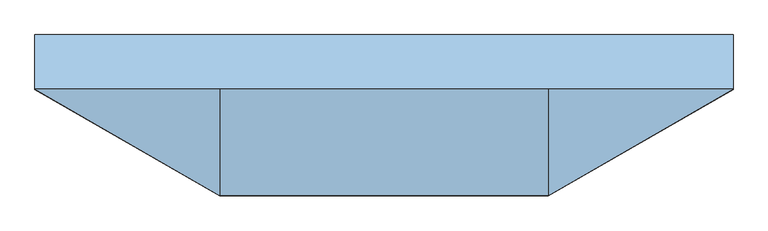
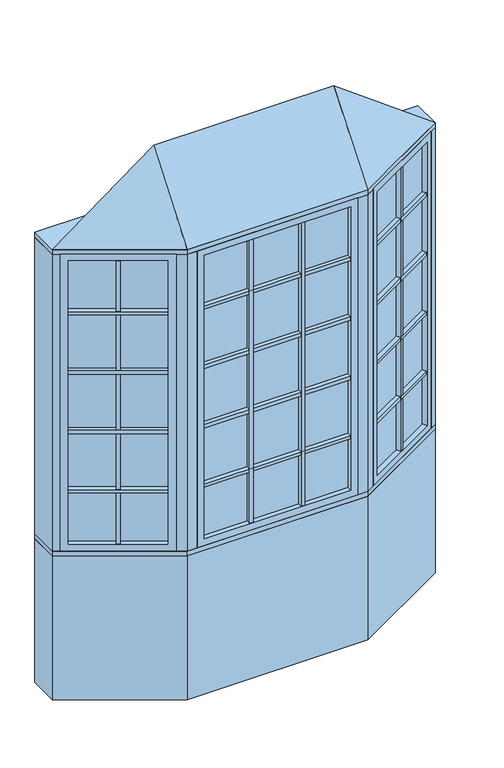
"""IFC4 building model written with IfcOpenShell, lengths in millimetres: window geometry, Pollard_Windows_Tudor Casement Bows and Bays : AML-BAY 30 AFR0616-08-500_GC."""

from ifc_helpers import new_model, si_unit, frame, origin, origin_with_axes, place, context, project, spatial, polyline, outline, extrude, faceted_brep, source, transform, mapped, element, save


def window_e9c9ef86(model_context):
    return source(origin(), model_context, "Body", "SolidModel", [
        extrude(outline(polyline([(532.2305346, -327.3537343), (521.2305346, -308.3011754), (902.1135794, -88.3982469), (913.1135794, -107.4508058), (532.2305346, -327.3537343)])), frame((0.0, 0.0, 1110.998), z_axis=(0.0, 0.0, 1.0), x_axis=(1.0, 0.0, 0.0)), (0.0, 0.0, 1.0), 18.0),
        extrude(outline(polyline([(518.6905346, -303.9017664), (507.6905346, -284.8492075), (888.5735794, -64.946279), (899.5735794, -83.9988379), (518.6905346, -303.9017664)])), frame((0.0, 0.0, 1110.998), z_axis=(0.0, 0.0, 1.0), x_axis=(1.0, 0.0, 0.0)), (0.0, 0.0, 1.0), 18.0),
        extrude(outline(polyline([(532.2305346, -327.3537343), (521.2305346, -308.3011754), (902.1135794, -88.3982469), (913.1135794, -107.4508058), (532.2305346, -327.3537343)])), frame((0.0, 0.0, 1430.998), z_axis=(0.0, 0.0, 1.0), x_axis=(1.0, 0.0, 0.0)), (0.0, 0.0, 1.0), 18.0),
        extrude(outline(polyline([(518.6905346, -303.9017664), (507.6905346, -284.8492075), (888.5735794, -64.946279), (899.5735794, -83.9988379), (518.6905346, -303.9017664)])), frame((0.0, 0.0, 1430.998), z_axis=(0.0, 0.0, 1.0), x_axis=(1.0, 0.0, 0.0)), (0.0, 0.0, 1.0), 18.0),
        extrude(outline(polyline([(532.2305346, -327.3537343), (521.2305346, -308.3011754), (902.1135794, -88.3982469), (913.1135794, -107.4508058), (532.2305346, -327.3537343)])), frame((0.0, 0.0, 1750.998), z_axis=(0.0, 0.0, 1.0), x_axis=(1.0, 0.0, 0.0)), (0.0, 0.0, 1.0), 18.0),
        extrude(outline(polyline([(518.6905346, -303.9017664), (507.6905346, -284.8492075), (888.5735794, -64.946279), (899.5735794, -83.9988379), (518.6905346, -303.9017664)])), frame((0.0, 0.0, 1750.998), z_axis=(0.0, 0.0, 1.0), x_axis=(1.0, 0.0, 0.0)), (0.0, 0.0, 1.0), 18.0),
        extrude(outline(polyline([(532.2305346, -327.3537343), (521.2305346, -308.3011754), (902.1135794, -88.3982469), (913.1135794, -107.4508058), (532.2305346, -327.3537343)])), frame((0.0, 0.0, 2070.998), z_axis=(0.0, 0.0, 1.0), x_axis=(1.0, 0.0, 0.0)), (0.0, 0.0, 1.0), 18.0),
        extrude(outline(polyline([(518.6905346, -303.9017664), (507.6905346, -284.8492075), (888.5735794, -64.946279), (899.5735794, -83.9988379), (518.6905346, -303.9017664)])), frame((0.0, 0.0, 2070.998), z_axis=(0.0, 0.0, 1.0), x_axis=(1.0, 0.0, 0.0)), (0.0, 0.0, 1.0), 18.0),
        extrude(outline(polyline([(719.4662856, -193.8497112), (730.4662856, -212.9022701), (714.8778284, -221.9022701), (703.8778284, -202.8497112), (719.4662856, -193.8497112)])), frame((0.0, 0.0, 835.8628), z_axis=(0.0, 0.0, 1.0), x_axis=(1.0, 0.0, 0.0)), (0.0, 0.0, 1.0), 1528.2704),
        extrude(outline(polyline([(716.9262856, -189.4503021), (701.3378284, -198.4503021), (690.3378284, -179.3977432), (705.9262856, -170.3977432), (716.9262856, -189.4503021)])), frame((0.0, 0.0, 835.8628), z_axis=(0.0, 0.0, 1.0), x_axis=(1.0, 0.0, 0.0)), (0.0, 0.0, 1.0), 1528.2704),
        extrude(outline(polyline([(913.112102, -82.0482469), (510.2320119, -314.6511754), (507.6920119, -310.2517664), (910.572102, -77.6488379), (913.112102, -82.0482469)])), frame((0.0, 0.0, 823.1628), z_axis=(0.0, 0.0, 1.0), x_axis=(1.0, 0.0, 0.0)), (0.0, 0.0, 1.0), 1553.6704),
        faceted_brep([(902.1135794, -88.3982469, 835.8628), (914.8135794, -110.3952922, 835.8628), (914.8135794, -110.3952922, 2364.1332), (902.1135794, -88.3982469, 2364.1332), (910.572102, -77.6488379, 823.1628), (913.112102, -82.0482469, 823.1628), (913.112102, -82.0482469, 2376.8332), (910.572102, -77.6488379, 2376.8332), (886.8735794, -62.0017926, 835.8628), (899.5735794, -83.9988379, 835.8628), (899.5735794, -83.9988379, 2364.1332), (886.8735794, -62.0017926, 2364.1332), (945.8734073, -92.4628922, 799.998), (917.9334073, -44.0693926, 799.998), (917.9334073, -44.0693926, 2399.998), (945.8734073, -92.4628922, 2399.998), (533.9305346, -330.2982207, 2364.1332), (521.2305346, -308.3011754, 2364.1332), (510.2320119, -314.6511754, 2376.8332), (507.6920119, -310.2517664, 2376.8332), (518.6905346, -303.9017664, 2364.1332), (505.9905346, -281.9047211, 2364.1332), (474.9307067, -299.8371211, 2399.998), (502.8707067, -348.2306207, 2399.998), (533.9305346, -330.2982207, 835.8628), (521.2305346, -308.3011754, 835.8628), (510.2320119, -314.6511754, 823.1628), (507.6920119, -310.2517664, 823.1628), (518.6905346, -303.9017664, 835.8628), (505.9905346, -281.9047211, 835.8628), (474.9307067, -299.8371211, 799.998), (502.8707067, -348.2306207, 799.998)], [[[0, 1, 2, 3]], [[4, 5, 6, 7]], [[8, 9, 10, 11]], [[12, 13, 14, 15]], [[3, 2, 16, 17]], [[7, 6, 18, 19]], [[11, 10, 20, 21]], [[15, 14, 22, 23]], [[17, 16, 24, 25]], [[19, 18, 26, 27]], [[21, 20, 28, 29]], [[23, 22, 30, 31]], [[25, 24, 1, 0]], [[5, 26, 18, 6], [3, 17, 25, 0]], [[27, 26, 5, 4]], [[7, 19, 27, 4], [9, 28, 20, 10]], [[29, 28, 9, 8]], [[13, 30, 22, 14], [11, 21, 29, 8]], [[31, 30, 13, 12]], [[15, 23, 31, 12], [1, 24, 16, 2]]]),
        extrude(outline(polyline([(140.8016788, -347.8306207), (140.8016788, -369.8306207), (122.8016788, -369.8306207), (122.8016788, -347.8306207), (140.8016788, -347.8306207)])), frame((0.0, 0.0, 835.8628), z_axis=(0.0, 0.0, 1.0), x_axis=(1.0, 0.0, 0.0)), (0.0, 0.0, 1.0), 1528.2704),
        extrude(outline(polyline([(140.8016788, -342.7506207), (122.8016788, -342.7506207), (122.8016788, -320.7506207), (140.8016788, -320.7506207), (140.8016788, -342.7506207)])), frame((0.0, 0.0, 835.8628), z_axis=(0.0, 0.0, 1.0), x_axis=(1.0, 0.0, 0.0)), (0.0, 0.0, 1.0), 1528.2704),
        extrude(outline(polyline([(-122.8016788, -347.8306207), (-122.8016788, -369.8306207), (-140.8016788, -369.8306207), (-140.8016788, -347.8306207), (-122.8016788, -347.8306207)])), frame((0.0, 0.0, 835.8628), z_axis=(0.0, 0.0, 1.0), x_axis=(1.0, 0.0, 0.0)), (0.0, 0.0, 1.0), 1528.2704),
        extrude(outline(polyline([(-122.8016788, -342.7506207), (-140.8016788, -342.7506207), (-140.8016788, -320.7506207), (-122.8016788, -320.7506207), (-122.8016788, -342.7506207)])), frame((0.0, 0.0, 835.8628), z_axis=(0.0, 0.0, 1.0), x_axis=(1.0, 0.0, 0.0)), (0.0, 0.0, 1.0), 1528.2704),
        extrude(outline(polyline([(-373.7046365, -369.8306207), (-373.7046365, -347.8306207), (373.7046365, -347.8306207), (373.7046365, -369.8306207), (-373.7046365, -369.8306207)])), frame((0.0, 0.0, 1110.998), z_axis=(0.0, 0.0, 1.0), x_axis=(1.0, 0.0, 0.0)), (0.0, 0.0, 1.0), 18.0),
        extrude(outline(polyline([(-373.7046365, -342.7506207), (-373.7046365, -320.7506207), (373.7046365, -320.7506207), (373.7046365, -342.7506207), (-373.7046365, -342.7506207)])), frame((0.0, 0.0, 1110.998), z_axis=(0.0, 0.0, 1.0), x_axis=(1.0, 0.0, 0.0)), (0.0, 0.0, 1.0), 18.0),
        extrude(outline(polyline([(-373.7046365, -369.8306207), (-373.7046365, -347.8306207), (373.7046365, -347.8306207), (373.7046365, -369.8306207), (-373.7046365, -369.8306207)])), frame((0.0, 0.0, 1430.998), z_axis=(0.0, 0.0, 1.0), x_axis=(1.0, 0.0, 0.0)), (0.0, 0.0, 1.0), 18.0),
        extrude(outline(polyline([(-373.7046365, -342.7506207), (-373.7046365, -320.7506207), (373.7046365, -320.7506207), (373.7046365, -342.7506207), (-373.7046365, -342.7506207)])), frame((0.0, 0.0, 1430.998), z_axis=(0.0, 0.0, 1.0), x_axis=(1.0, 0.0, 0.0)), (0.0, 0.0, 1.0), 18.0),
        extrude(outline(polyline([(-373.7046365, -369.8306207), (-373.7046365, -347.8306207), (373.7046365, -347.8306207), (373.7046365, -369.8306207), (-373.7046365, -369.8306207)])), frame((0.0, 0.0, 1750.998), z_axis=(0.0, 0.0, 1.0), x_axis=(1.0, 0.0, 0.0)), (0.0, 0.0, 1.0), 18.0),
        extrude(outline(polyline([(-373.7046365, -342.7506207), (-373.7046365, -320.7506207), (373.7046365, -320.7506207), (373.7046365, -342.7506207), (-373.7046365, -342.7506207)])), frame((0.0, 0.0, 1750.998), z_axis=(0.0, 0.0, 1.0), x_axis=(1.0, 0.0, 0.0)), (0.0, 0.0, 1.0), 18.0),
        extrude(outline(polyline([(-913.1135794, -107.4508058), (-902.1135794, -88.3982469), (-521.2305346, -308.3011754), (-532.2305346, -327.3537343), (-913.1135794, -107.4508058)])), frame((0.0, 0.0, 1110.998), z_axis=(0.0, 0.0, 1.0), x_axis=(1.0, 0.0, 0.0)), (0.0, 0.0, 1.0), 18.0),
        extrude(outline(polyline([(-899.5735794, -83.9988379), (-888.5735794, -64.946279), (-507.6905346, -284.8492075), (-518.6905346, -303.9017664), (-899.5735794, -83.9988379)])), frame((0.0, 0.0, 1110.998), z_axis=(0.0, 0.0, 1.0), x_axis=(1.0, 0.0, 0.0)), (0.0, 0.0, 1.0), 18.0),
        extrude(outline(polyline([(-913.1135794, -107.4508058), (-902.1135794, -88.3982469), (-521.2305346, -308.3011754), (-532.2305346, -327.3537343), (-913.1135794, -107.4508058)])), frame((0.0, 0.0, 1430.998), z_axis=(0.0, 0.0, 1.0), x_axis=(1.0, 0.0, 0.0)), (0.0, 0.0, 1.0), 18.0),
        extrude(outline(polyline([(-899.5735794, -83.9988379), (-888.5735794, -64.946279), (-507.6905346, -284.8492075), (-518.6905346, -303.9017664), (-899.5735794, -83.9988379)])), frame((0.0, 0.0, 1430.998), z_axis=(0.0, 0.0, 1.0), x_axis=(1.0, 0.0, 0.0)), (0.0, 0.0, 1.0), 18.0),
        extrude(outline(polyline([(-913.1135794, -107.4508058), (-902.1135794, -88.3982469), (-521.2305346, -308.3011754), (-532.2305346, -327.3537343), (-913.1135794, -107.4508058)])), frame((0.0, 0.0, 1750.998), z_axis=(0.0, 0.0, 1.0), x_axis=(1.0, 0.0, 0.0)), (0.0, 0.0, 1.0), 18.0),
        extrude(outline(polyline([(-899.5735794, -83.9988379), (-888.5735794, -64.946279), (-507.6905346, -284.8492075), (-518.6905346, -303.9017664), (-899.5735794, -83.9988379)])), frame((0.0, 0.0, 1750.998), z_axis=(0.0, 0.0, 1.0), x_axis=(1.0, 0.0, 0.0)), (0.0, 0.0, 1.0), 18.0),
        extrude(outline(polyline([(-913.1135794, -107.4508058), (-902.1135794, -88.3982469), (-521.2305346, -308.3011754), (-532.2305346, -327.3537343), (-913.1135794, -107.4508058)])), frame((0.0, 0.0, 2070.998), z_axis=(0.0, 0.0, 1.0), x_axis=(1.0, 0.0, 0.0)), (0.0, 0.0, 1.0), 18.0),
        extrude(outline(polyline([(-899.5735794, -83.9988379), (-888.5735794, -64.946279), (-507.6905346, -284.8492075), (-518.6905346, -303.9017664), (-899.5735794, -83.9988379)])), frame((0.0, 0.0, 2070.998), z_axis=(0.0, 0.0, 1.0), x_axis=(1.0, 0.0, 0.0)), (0.0, 0.0, 1.0), 18.0),
        extrude(outline(polyline([(-373.7046365, -369.8306207), (-373.7046365, -347.8306207), (373.7046365, -347.8306207), (373.7046365, -369.8306207), (-373.7046365, -369.8306207)])), frame((0.0, 0.0, 2070.998), z_axis=(0.0, 0.0, 1.0), x_axis=(1.0, 0.0, 0.0)), (0.0, 0.0, 1.0), 18.0),
        extrude(outline(polyline([(-373.7046365, -342.7506207), (-373.7046365, -320.7506207), (373.7046365, -320.7506207), (373.7046365, -342.7506207), (-373.7046365, -342.7506207)])), frame((0.0, 0.0, 2070.998), z_axis=(0.0, 0.0, 1.0), x_axis=(1.0, 0.0, 0.0)), (0.0, 0.0, 1.0), 18.0),
        extrude(outline(polyline([(-703.8778284, -202.8497112), (-714.8778284, -221.9022701), (-730.4662856, -212.9022701), (-719.4662856, -193.8497112), (-703.8778284, -202.8497112)])), frame((0.0, 0.0, 835.8628), z_axis=(0.0, 0.0, 1.0), x_axis=(1.0, 0.0, 0.0)), (0.0, 0.0, 1.0), 1528.2704),
        extrude(outline(polyline([(-701.3378284, -198.4503021), (-716.9262856, -189.4503021), (-705.9262856, -170.3977432), (-690.3378284, -179.3977432), (-701.3378284, -198.4503021)])), frame((0.0, 0.0, 835.8628), z_axis=(0.0, 0.0, 1.0), x_axis=(1.0, 0.0, 0.0)), (0.0, 0.0, 1.0), 1528.2704),
        extrude(outline(polyline([(-510.2320119, -314.6511754), (-913.112102, -82.0482469), (-910.572102, -77.6488379), (-507.6920119, -310.2517664), (-510.2320119, -314.6511754)])), frame((0.0, 0.0, 823.1628), z_axis=(0.0, 0.0, 1.0), x_axis=(1.0, 0.0, 0.0)), (0.0, 0.0, 1.0), 1553.6704),
        faceted_brep([(-518.6905346, -303.9017664, 2364.1332), (-505.9905346, -281.9047211, 2364.1332), (-505.9905346, -281.9047211, 835.8628), (-518.6905346, -303.9017664, 835.8628), (-510.2320119, -314.6511754, 2376.8332), (-507.6920119, -310.2517664, 2376.8332), (-507.6920119, -310.2517664, 823.1628), (-510.2320119, -314.6511754, 823.1628), (-533.9305346, -330.2982207, 2364.1332), (-521.2305346, -308.3011754, 2364.1332), (-521.2305346, -308.3011754, 835.8628), (-533.9305346, -330.2982207, 835.8628), (-474.9307067, -299.8371211, 2399.998), (-502.8707067, -348.2306207, 2399.998), (-502.8707067, -348.2306207, 799.998), (-474.9307067, -299.8371211, 799.998), (-886.8735794, -62.0017926, 835.8628), (-899.5735794, -83.9988379, 835.8628), (-910.572102, -77.6488379, 823.1628), (-913.112102, -82.0482469, 823.1628), (-902.1135794, -88.3982469, 835.8628), (-914.8135794, -110.3952922, 835.8628), (-945.8734073, -92.4628922, 799.998), (-917.9334073, -44.0693926, 799.998), (-886.8735794, -62.0017926, 2364.1332), (-899.5735794, -83.9988379, 2364.1332), (-910.572102, -77.6488379, 2376.8332), (-913.112102, -82.0482469, 2376.8332), (-902.1135794, -88.3982469, 2364.1332), (-914.8135794, -110.3952922, 2364.1332), (-945.8734073, -92.4628922, 2399.998), (-917.9334073, -44.0693926, 2399.998)], [[[0, 1, 2, 3]], [[4, 5, 6, 7]], [[8, 9, 10, 11]], [[12, 13, 14, 15]], [[3, 2, 16, 17]], [[7, 6, 18, 19]], [[11, 10, 20, 21]], [[15, 14, 22, 23]], [[17, 16, 24, 25]], [[19, 18, 26, 27]], [[21, 20, 28, 29]], [[23, 22, 30, 31]], [[15, 23, 31, 12], [1, 24, 16, 2]], [[25, 24, 1, 0]], [[5, 26, 18, 6], [3, 17, 25, 0]], [[27, 26, 5, 4]], [[7, 19, 27, 4], [9, 28, 20, 10]], [[29, 28, 9, 8]], [[13, 30, 22, 14], [11, 21, 29, 8]], [[31, 30, 13, 12]]]),
        extrude(outline(polyline([(386.4046365, -347.8306207), (-386.4046365, -347.8306207), (-386.4046365, -342.7506207), (386.4046365, -342.7506207), (386.4046365, -347.8306207)])), frame((0.0, 0.0, 823.1628), z_axis=(0.0, 0.0, 1.0), x_axis=(1.0, 0.0, 0.0)), (0.0, 0.0, 1.0), 1553.6704),
        faceted_brep([(373.7046365, -347.8306207, 835.8628), (373.7046365, -373.2306207, 835.8628), (373.7046365, -373.2306207, 2364.1332), (373.7046365, -347.8306207, 2364.1332), (386.4046365, -342.7506207, 823.1628), (386.4046365, -347.8306207, 823.1628), (386.4046365, -347.8306207, 2376.8332), (386.4046365, -342.7506207, 2376.8332), (373.7046365, -317.3506207, 835.8628), (373.7046365, -342.7506207, 835.8628), (373.7046365, -342.7506207, 2364.1332), (373.7046365, -317.3506207, 2364.1332), (409.5694365, -373.2306207, 799.998), (409.5694365, -317.3506207, 799.998), (409.5694365, -317.3506207, 2399.998), (409.5694365, -373.2306207, 2399.998), (-373.7046365, -373.2306207, 2364.1332), (-373.7046365, -347.8306207, 2364.1332), (-386.4046365, -347.8306207, 2376.8332), (-386.4046365, -342.7506207, 2376.8332), (-373.7046365, -342.7506207, 2364.1332), (-373.7046365, -317.3506207, 2364.1332), (-409.5694365, -317.3506207, 2399.998), (-409.5694365, -373.2306207, 2399.998), (-373.7046365, -373.2306207, 835.8628), (-373.7046365, -347.8306207, 835.8628), (-386.4046365, -347.8306207, 823.1628), (-386.4046365, -342.7506207, 823.1628), (-373.7046365, -342.7506207, 835.8628), (-373.7046365, -317.3506207, 835.8628), (-409.5694365, -317.3506207, 799.998), (-409.5694365, -373.2306207, 799.998)], [[[0, 1, 2, 3]], [[4, 5, 6, 7]], [[8, 9, 10, 11]], [[12, 13, 14, 15]], [[3, 2, 16, 17]], [[7, 6, 18, 19]], [[11, 10, 20, 21]], [[15, 14, 22, 23]], [[17, 16, 24, 25]], [[19, 18, 26, 27]], [[21, 20, 28, 29]], [[23, 22, 30, 31]], [[15, 23, 31, 12], [1, 24, 16, 2]], [[25, 24, 1, 0]], [[5, 26, 18, 6], [3, 17, 25, 0]], [[27, 26, 5, 4]], [[7, 19, 27, 4], [9, 28, 20, 10]], [[29, 28, 9, 8]], [[13, 30, 22, 14], [11, 21, 29, 8]], [[31, 30, 13, 12]]]),
        faceted_brep([(976.5, -74.7806207, 2425.398), (459.5694365, -373.2306207, 2425.398), (-459.5694365, -373.2306207, 2425.398), (-976.5, -74.7806207, 2425.398), (-459.5694365, -74.7806207, 2806.398), (459.5694365, -74.7806207, 2806.398)], [[[0, 1, 2, 3]], [[3, 2, 4]], [[2, 1, 5, 4]], [[1, 0, 5]], [[0, 3, 4, 5]]]),
        extrude(outline(polyline([(-976.5, 77.6193793), (976.5, 77.6193793), (976.5, -74.7806207), (459.5694365, -373.2306207), (-459.5694365, -373.2306207), (-976.5, -74.7806207), (-976.5, 77.6193793)])), frame((0.0, 0.0, 2399.998), z_axis=(0.0, 0.0, 1.0), x_axis=(1.0, 0.0, 0.0)), (0.0, 0.0, 1.0), 25.4),
        extrude(outline(polyline([(-976.5, -74.7806207), (-976.5, 77.6193793), (-935.6645431, 77.6193793), (-935.6645431, -74.7806207), (-945.8734073, -92.4628922), (-976.5, -74.7806207)])), frame((0.0, 0.0, 799.998), z_axis=(0.0, 0.0, 1.0), x_axis=(1.0, 0.0, 0.0)), (0.0, 0.0, 1.0), 1600.0),
        extrude(outline(polyline([(976.5, 77.6193793), (976.5, -74.7806207), (945.8734073, -92.4628922), (935.6645431, -74.7806207), (935.6645431, 77.6193793), (976.5, 77.6193793)])), frame((0.0, 0.0, 799.998), z_axis=(0.0, 0.0, 1.0), x_axis=(1.0, 0.0, 0.0)), (0.0, 0.0, 1.0), 1600.0),
        extrude(outline(polyline([(459.5694365, -373.2306207), (409.5694365, -373.2306207), (409.5694365, -323.2306207), (446.1719769, -323.2306207), (477.8707067, -304.9293505), (502.8707067, -348.2306207), (459.5694365, -373.2306207)])), frame((0.0, 0.0, 799.998), z_axis=(0.0, 0.0, 1.0), x_axis=(1.0, 0.0, 0.0)), (0.0, 0.0, 1.0), 1600.0),
        extrude(outline(polyline([(-459.5694365, -373.2306207), (-502.8707067, -348.2306207), (-477.8707067, -304.9293505), (-446.1719769, -323.2306207), (-409.5694365, -323.2306207), (-409.5694365, -373.2306207), (-459.5694365, -373.2306207)])), frame((0.0, 0.0, 799.998), z_axis=(0.0, 0.0, 1.0), x_axis=(1.0, 0.0, 0.0)), (0.0, 0.0, 1.0), 1600.0),
        extrude(outline(polyline([(-459.5694365, -373.2306207), (-976.5, -74.7806207), (-976.5, 77.6193793), (-935.6645431, 77.6193793), (-418.7339796, -220.8306207), (418.7339796, -220.8306207), (935.6645431, 77.6193793), (976.5, 77.6193793), (976.5, -74.7806207), (459.5694365, -373.2306207), (-459.5694365, -373.2306207)])), frame((0.0, 0.0, 774.598), z_axis=(0.0, 0.0, 1.0), x_axis=(1.0, 0.0, 0.0)), (0.0, 0.0, 1.0), 25.4),
        extrude(outline(polyline([(-976.5, -74.7806207), (-976.5, 77.6193793), (-935.6645431, 77.6193793), (-418.7339796, -220.8306207), (418.7339796, -220.8306207), (935.6645431, 77.6193793), (976.5, 77.6193793), (976.5, -74.7806207), (459.5694365, -373.2306207), (-459.5694365, -373.2306207), (-976.5, -74.7806207)])), origin_with_axes(), (0.0, 0.0, 1.0), 774.598),
    ])


if __name__ == "__main__":
    model = new_model("IFC4")
    model_context = context("Model", 3, world=origin())
    ifc_project = project(units=[si_unit("LENGTHUNIT", "METRE", prefix="MILLI")], contexts=[model_context])
    site = spatial("IfcSite", under=ifc_project)
    building = spatial("IfcBuilding", under=site)
    placement = place(None, origin())
    window_shape = window_e9c9ef86(model_context)
    element("IfcWindow", 1, ObjectType="Pollard_Windows_Tudor Casement Bows and Bays : AML-BAY 30 AFR0616-08-500_GC", at=placement, inside=building, context=model_context, shape_type="MappedRepresentation", body=[
        mapped(window_shape, transform((0.0, 0.0, 0.0), x_axis=(1.0, 0.0, 0.0), y_axis=(0.0, 1.0, 0.0), z_axis=(0.0, 0.0, 1.0))),
    ])
    save(model, "model.ifc")
